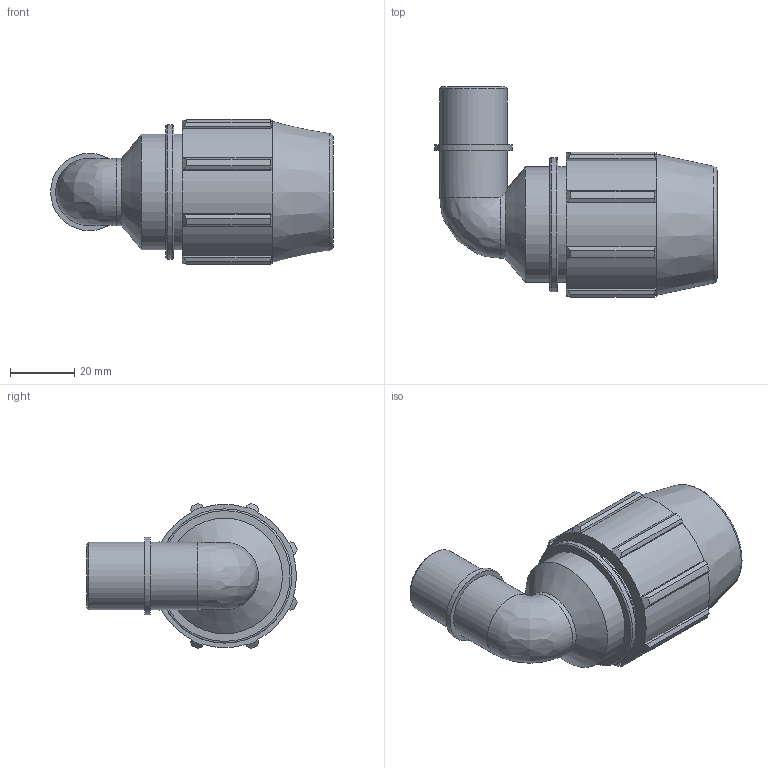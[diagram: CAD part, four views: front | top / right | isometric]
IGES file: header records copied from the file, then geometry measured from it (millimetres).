
Global section: file name: 0785M0007005.ipt; native system: Autodesk Inventor 2019; preprocessor: unknown; author: KIM; date: 20210826.124932; units: inch
Bounding box: 88 x 65.51 x 45.17 mm (x, y, z)
Volume: 62370.3 mm3; surface area: 22550.8 mm2
Topology: 1 solids, 1 shells, 86 faces, 237 edges, 158 vertices
Faces by surface type: plane 41, cylinder 23, cone 12, revolution 9, bspline 1
Full cylindrical faces by diameter (mm): 20.955 x2, 24.098 x1, 36.005 x2, 41.765 x1
